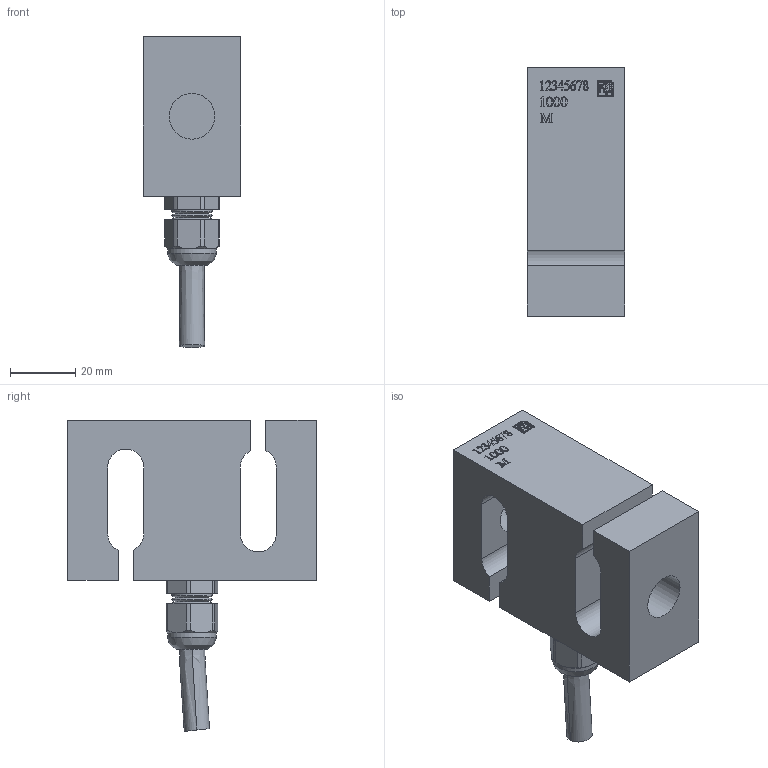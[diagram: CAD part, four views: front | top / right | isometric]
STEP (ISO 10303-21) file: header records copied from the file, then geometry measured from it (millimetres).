
FILE_DESCRIPTION(/* description */ (''),/* implementation_level */ '2;1');
FILE_NAME(/* name */ '//pdmuksvr/e/Marketing 2.0/1. Assets/10. CAD/Dumb CAD/ULB/ulb-1000kg-outline.step',/* time_stamp */ '2021-11-09T08:26:33+00:00',/* author */ (''),/* organization */ (''),/* preprocessor_version */ 'ST-DEVELOPER v18.1',/* originating_system */ 'Autodesk Translation Framework v10.10.0.1391',/* authorisation */ '');
FILE_SCHEMA (('AUTOMOTIVE_DESIGN { 1 0 10303 214 3 1 1 }'));
Length unit declared in the file: millimetre
Products named in the file (4): ulb-1000kg-outline; cableGland; cable; mainBody
Assembly tree (3 placements, depth 2):
  ulb-1000kg-outline
    cableGland
    cable
    mainBody
Bounding box: 30 x 76.2 x 95.3 mm (x, y, z)
Volume: 91895.7 mm3; surface area: 23885.2 mm2
Topology: 4 solids, 4 shells, 480 faces, 1185 edges, 783 vertices
Faces by surface type: plane 185, bspline 172, cylinder 72, cone 49, torus 2
Full cylindrical faces by diameter (mm): 0.5 x47, 7.62 x2, 9.335 x2, 14 x2, 14.986 x1
Entity records: 19747 total; most frequent: CARTESIAN_POINT 9196, ORIENTED_EDGE 2370, DIRECTION 1697, EDGE_CURVE 1185, VERTEX_POINT 783, LINE 599, VECTOR 599, EDGE_LOOP 558
